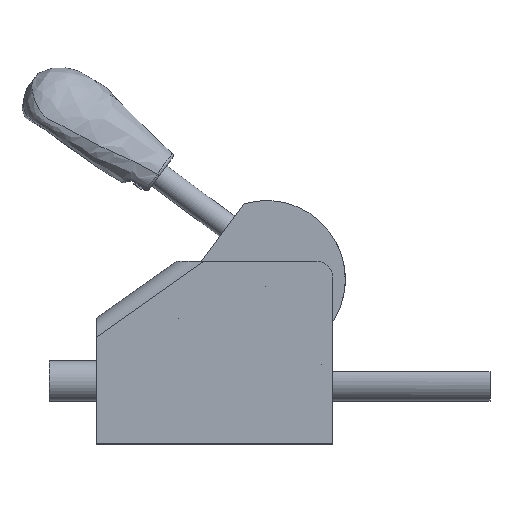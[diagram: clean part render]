
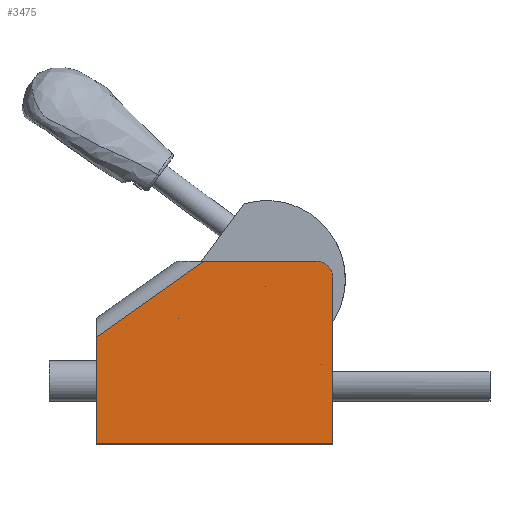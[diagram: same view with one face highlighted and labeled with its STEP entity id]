
A CAD part, top view. The second image highlights one B-rep face of the part: STEP entity #3475.
In plain terms, the highlighted planar face has unit normal (0, 0, 1).
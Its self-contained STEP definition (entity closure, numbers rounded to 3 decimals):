
#171=FACE_BOUND('',#505,.T.);
#172=FACE_BOUND('',#506,.T.);
#173=FACE_BOUND('',#507,.T.);
#214=PLANE('',#3789);
#309=FACE_OUTER_BOUND('',#504,.T.);
#504=EDGE_LOOP('',(#2367,#2368,#2369,#2370,#2371,#2372));
#505=EDGE_LOOP('',(#2373));
#506=EDGE_LOOP('',(#2374));
#507=EDGE_LOOP('',(#2375));
#742=LINE('',#5142,#1023);
#747=LINE('',#5156,#1028);
#748=LINE('',#5158,#1029);
#749=LINE('',#5160,#1030);
#750=LINE('',#5161,#1031);
#1023=VECTOR('',#4156,10.);
#1028=VECTOR('',#4169,10.);
#1029=VECTOR('',#4170,10.);
#1030=VECTOR('',#4171,10.);
#1031=VECTOR('',#4172,10.);
#1300=CIRCLE('',#3787,5.);
#1302=CIRCLE('',#3790,0.005);
#1303=CIRCLE('',#3791,0.005);
#1304=CIRCLE('',#3792,0.005);
#1470=VERTEX_POINT('',#5139);
#1471=VERTEX_POINT('',#5141);
#1474=VERTEX_POINT('',#5149);
#1476=VERTEX_POINT('',#5155);
#1477=VERTEX_POINT('',#5157);
#1478=VERTEX_POINT('',#5159);
#1479=VERTEX_POINT('',#5162);
#1480=VERTEX_POINT('',#5164);
#1481=VERTEX_POINT('',#5166);
#1826=EDGE_CURVE('',#1470,#1471,#742,.T.);
#1830=EDGE_CURVE('',#1471,#1474,#1300,.T.);
#1833=EDGE_CURVE('',#1476,#1470,#747,.T.);
#1834=EDGE_CURVE('',#1477,#1476,#748,.T.);
#1835=EDGE_CURVE('',#1478,#1477,#749,.T.);
#1836=EDGE_CURVE('',#1474,#1478,#750,.T.);
#1837=EDGE_CURVE('',#1479,#1479,#1302,.T.);
#1838=EDGE_CURVE('',#1480,#1480,#1303,.T.);
#1839=EDGE_CURVE('',#1481,#1481,#1304,.T.);
#2367=ORIENTED_EDGE('',*,*,#1830,.F.);
#2368=ORIENTED_EDGE('',*,*,#1826,.F.);
#2369=ORIENTED_EDGE('',*,*,#1833,.F.);
#2370=ORIENTED_EDGE('',*,*,#1834,.F.);
#2371=ORIENTED_EDGE('',*,*,#1835,.F.);
#2372=ORIENTED_EDGE('',*,*,#1836,.F.);
#2373=ORIENTED_EDGE('',*,*,#1837,.T.);
#2374=ORIENTED_EDGE('',*,*,#1838,.T.);
#2375=ORIENTED_EDGE('',*,*,#1839,.T.);
#3475=ADVANCED_FACE('',(#309,#171,#172,#173),#214,.T.);
#3787=AXIS2_PLACEMENT_3D('',#5150,#4162,#4163);
#3789=AXIS2_PLACEMENT_3D('',#5154,#4167,#4168);
#3790=AXIS2_PLACEMENT_3D('',#5163,#4173,#4174);
#3791=AXIS2_PLACEMENT_3D('',#5165,#4175,#4176);
#3792=AXIS2_PLACEMENT_3D('',#5167,#4177,#4178);
#4156=DIRECTION('',(1.,0.,0.));
#4162=DIRECTION('center_axis',(0.,0.,-1.));
#4163=DIRECTION('ref_axis',(0.707,0.707,0.));
#4167=DIRECTION('center_axis',(0.,0.,1.));
#4168=DIRECTION('ref_axis',(1.,0.,0.));
#4169=DIRECTION('',(0.816,0.578,0.));
#4170=DIRECTION('',(0.,1.,0.));
#4171=DIRECTION('',(-1.,0.,0.));
#4172=DIRECTION('',(0.,-1.,0.));
#4173=DIRECTION('center_axis',(0.,0.,-1.));
#4174=DIRECTION('ref_axis',(-1.,0.,0.));
#4175=DIRECTION('center_axis',(0.,0.,-1.));
#4176=DIRECTION('ref_axis',(-1.,0.,0.));
#4177=DIRECTION('center_axis',(0.,0.,-1.));
#4178=DIRECTION('ref_axis',(-1.,0.,0.));
#5139=CARTESIAN_POINT('',(-0.514,32.935,20.));
#5141=CARTESIAN_POINT('',(35.411,32.935,20.));
#5142=CARTESIAN_POINT('',(40.411,32.935,20.));
#5149=CARTESIAN_POINT('',(40.411,27.935,20.));
#5150=CARTESIAN_POINT('Origin',(35.411,27.935,20.));
#5154=CARTESIAN_POINT('Origin',(5.011,2.066,20.));
#5155=CARTESIAN_POINT('',(-34.589,8.809,20.));
#5156=CARTESIAN_POINT('',(-21.546,18.044,20.));
#5157=CARTESIAN_POINT('',(-34.589,-25.065,20.));
#5158=CARTESIAN_POINT('',(-34.589,14.935,20.));
#5159=CARTESIAN_POINT('',(40.411,-25.065,20.));
#5160=CARTESIAN_POINT('',(-34.589,-25.065,20.));
#5161=CARTESIAN_POINT('',(40.411,-25.065,20.));
#5162=CARTESIAN_POINT('',(19.216,24.935,20.));
#5163=CARTESIAN_POINT('Origin',(19.211,24.935,20.));
#5164=CARTESIAN_POINT('',(36.916,0.035,20.));
#5165=CARTESIAN_POINT('Origin',(36.911,0.035,20.));
#5166=CARTESIAN_POINT('',(-8.584,14.835,20.));
#5167=CARTESIAN_POINT('Origin',(-8.589,14.835,20.));
